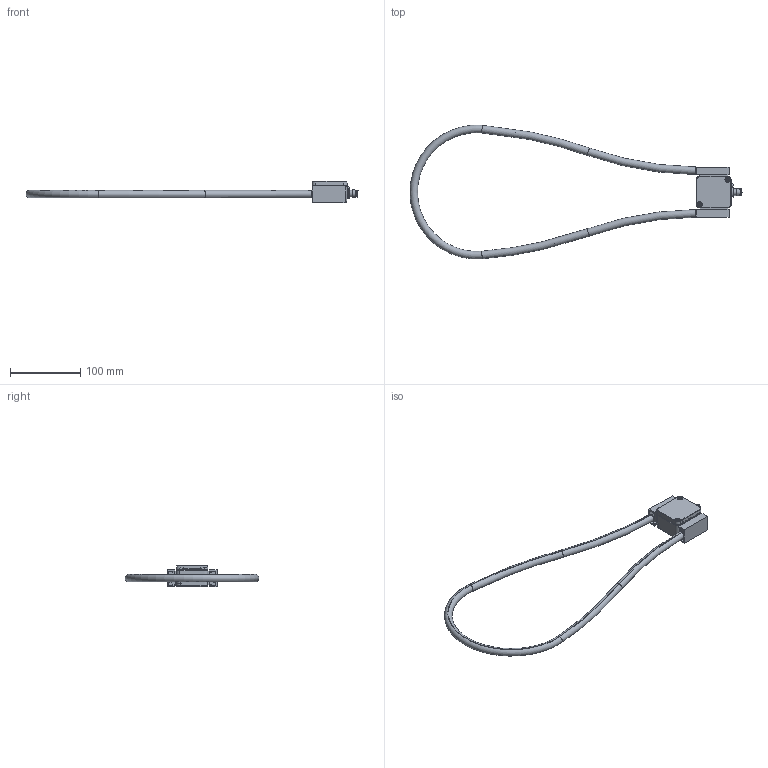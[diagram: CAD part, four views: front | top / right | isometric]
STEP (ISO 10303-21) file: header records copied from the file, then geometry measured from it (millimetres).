
FILE_DESCRIPTION(/* description */ (''),/* implementation_level */ '2;1');
FILE_NAME(/* name */ 'F:\daten\PRODUKTE\TELEMETR\A\Mechanik\CAD\3B\3B\Antenne_3B_TNC.stp',/* time_stamp */ '2018-04-12T10:17:18+02:00',/* author */ ('PHauser'),/* organization */ (''),/* preprocessor_version */ 'ST-DEVELOPER v16.5',/* originating_system */ 'Autodesk Inventor 2017',/* authorisation */ '');
FILE_SCHEMA (('AUTOMOTIVE_DESIGN { 1 0 10303 214 3 1 1 }'));
Length unit declared in the file: millimetre
Products named in the file (15): A100_3Dsym; PART1; A100_OT_3Dsym; Silikonunterlage; PVC_Antennenanschluss; Kupferband; Kunstoffrohr; TNC_J01011A2614(IP67); LED-RGB_5mm; Messingplatte; Dichtscheibe; Bauteil1; DIN 7985 (H) - M3,5x5-H; ISO 4762  - M3 x 5; Schutzkappe_V2R100
Assembly tree (25 placements, depth 2):
  A100_3Dsym
    PART1
    A100_OT_3Dsym
    Silikonunterlage  x2
    PVC_Antennenanschluss  x2
    Kupferband
    Kunstoffrohr
    TNC_J01011A2614(IP67)
    LED-RGB_5mm
    Messingplatte  x2
    Dichtscheibe  x4
    Bauteil1
    DIN 7985 (H) - M3,5x5-H  x4
    ISO 4762  - M3 x 5  x2
    Schutzkappe_V2R100  x2
Bounding box: 473.06 x 190.57 x 30 mm (x, y, z)
Volume: 66210.2 mm3; surface area: 127511.6 mm2
Topology: 25 solids, 25 shells, 749 faces, 1949 edges, 1269 vertices
Faces by surface type: plane 361, cylinder 216, cone 98, bspline 35, torus 34, sphere 5
Full cylindrical faces by diameter (mm): 1 x1, 1.1 x4, 1.8 x1, 2 x2, 2.459 x2, 3 x8, 3.2 x6, 3.242 x4, 3.4 x2, 3.5 x4, 4 x8, 4.1 x4, 4.5 x2, 4.8 x2, 5 x2, 5.5 x2, 6 x1, 6.3 x4, 6.5 x6, 7 x1, 7.2 x2, 9.3 x4, 9.6 x3, 9.8 x1, 10.3 x1, 13 x1, 14 x1, 14.4 x1
Entity records: 18294 total; most frequent: CARTESIAN_POINT 4800, DIRECTION 2865, ORIENTED_EDGE 2522, EDGE_CURVE 1261, AXIS2_PLACEMENT_3D 1125, VERTEX_POINT 876, EDGE_LOOP 709, LINE 615
